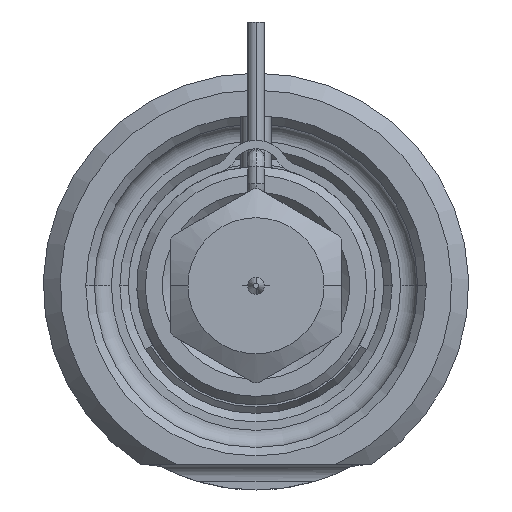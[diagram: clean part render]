
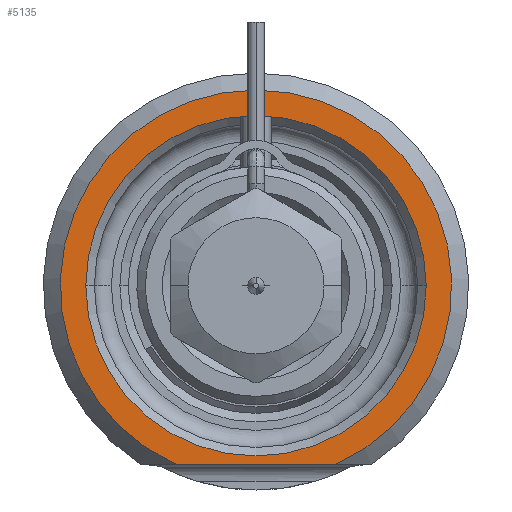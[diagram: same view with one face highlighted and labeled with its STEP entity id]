
A CAD part, front view. The second image highlights one B-rep face of the part: STEP entity #5135.
In plain terms, the highlighted planar face has unit normal (0, -1, 0).
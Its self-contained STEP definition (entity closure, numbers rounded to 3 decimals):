
#1315=CARTESIAN_POINT('',(0.,0.,0.));
#1316=DIRECTION('',(0.,-1.,0.));
#1317=DIRECTION('',(0.408,0.,-0.913));
#1318=AXIS2_PLACEMENT_3D('',#1315,#1316,#1317);
#1339=DIRECTION('',(1.,0.,0.));
#1340=VECTOR('',#1339,9.381);
#1341=CARTESIAN_POINT('',(-4.69,0.,-10.5));
#1342=LINE('',#1341,#1340);
#1343=CARTESIAN_POINT('',(0.,0.,0.));
#1344=DIRECTION('',(0.,1.,0.));
#1345=DIRECTION('',(-1.,0.,0.));
#1346=AXIS2_PLACEMENT_3D('',#1343,#1344,#1345);
#1348=CARTESIAN_POINT('',(0.,0.,0.));
#1349=DIRECTION('',(0.,1.,0.));
#1350=DIRECTION('',(1.,0.,0.));
#1351=AXIS2_PLACEMENT_3D('',#1348,#1349,#1350);
#3224=CARTESIAN_POINT('',(-10.,0.,0.));
#3225=CARTESIAN_POINT('',(10.,0.,0.));
#3226=VERTEX_POINT('',#3224);
#3227=VERTEX_POINT('',#3225);
#3282=CARTESIAN_POINT('',(-4.69,0.,-10.5));
#3283=CARTESIAN_POINT('',(4.69,0.,-10.5));
#3284=VERTEX_POINT('',#3282);
#3285=VERTEX_POINT('',#3283);
#5120=CARTESIAN_POINT('',(0.,0.,0.));
#5121=DIRECTION('',(0.,-1.,0.));
#5122=DIRECTION('',(1.,0.,0.));
#5123=AXIS2_PLACEMENT_3D('',#5120,#5121,#5122);
#5124=PLANE('',#5123);
#5125=ORIENTED_EDGE('',*,*,#5055,.F.);
#5126=ORIENTED_EDGE('',*,*,#5112,.F.);
#5127=EDGE_LOOP('',(#5125,#5126));
#5128=FACE_OUTER_BOUND('',#5127,.F.);
#5130=ORIENTED_EDGE('',*,*,#5129,.F.);
#5132=ORIENTED_EDGE('',*,*,#5131,.F.);
#5133=EDGE_LOOP('',(#5130,#5132));
#5134=FACE_BOUND('',#5133,.F.);
#5135=ADVANCED_FACE('',(#5128,#5134),#5124,.T.);
#1319=CIRCLE('',#1318,11.5);
#1347=CIRCLE('',#1346,10.);
#1352=CIRCLE('',#1351,10.);
#5055=EDGE_CURVE('',#3284,#3285,#1342,.T.);
#5112=EDGE_CURVE('',#3285,#3284,#1319,.T.);
#5129=EDGE_CURVE('',#3226,#3227,#1347,.T.);
#5131=EDGE_CURVE('',#3227,#3226,#1352,.T.);
